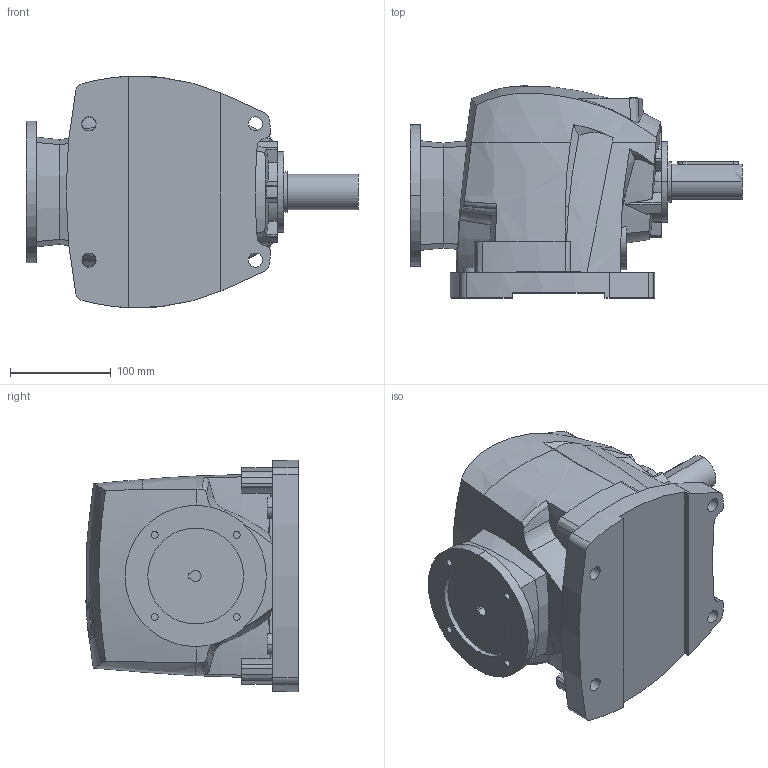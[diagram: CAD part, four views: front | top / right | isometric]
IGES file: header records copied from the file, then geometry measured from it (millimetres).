
Start section:  PTC IGES file: r30_sw_pam63_d2.igs
Global section: file name: r30_sw_pam63_d2.igs; native system: Pro/ENGINEER by Parametric Technology Corporation; preprocessor: 2008230; author: Luca; organization: Unknown; date: 20131120.161532; units: millimetre
Bounding box: 329 x 210.27 x 229.21 mm (x, y, z)
Volume: 7025877 mm3; surface area: 316420.1 mm2
Topology: 1 solids, 5 shells, 417 faces, 1123 edges, 749 vertices
Faces by surface type: bspline 231, revolution 163, extrusion 23
